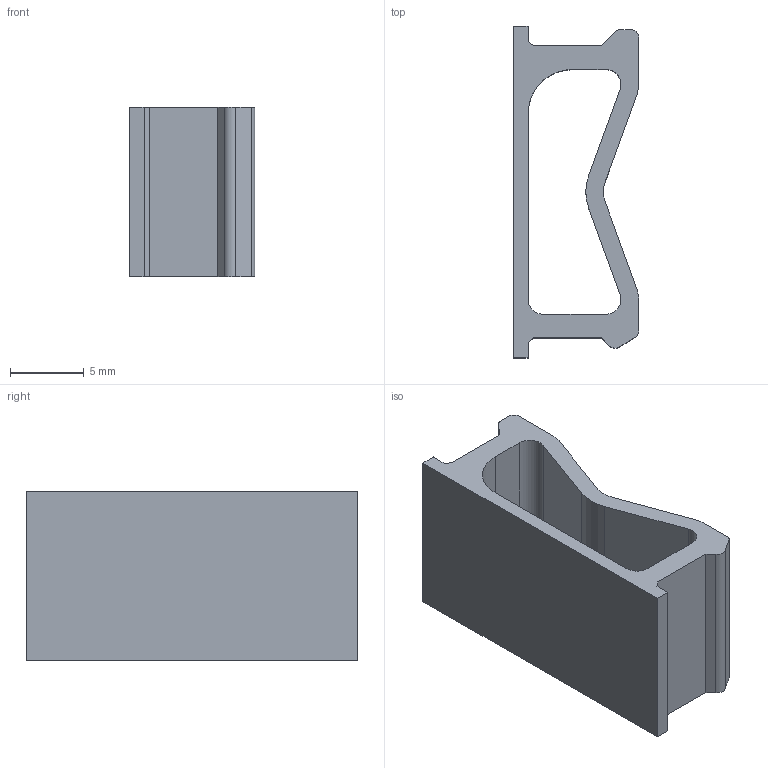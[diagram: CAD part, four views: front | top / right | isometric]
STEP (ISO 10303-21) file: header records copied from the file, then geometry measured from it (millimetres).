
FILE_DESCRIPTION(('FreeCAD Model'),'2;1');
FILE_NAME('Open CASCADE Shape Model','2023-05-07T23:04:13',('Author'),( ''),'Open CASCADE STEP processor 7.6','FreeCAD','Unknown');
FILE_SCHEMA(('AUTOMOTIVE_DESIGN { 1 0 10303 214 1 1 1 1 }'));
Length unit declared in the file: millimetre
Products named in the file (1): HSW Ez-V1 Hook BASE v2.2
Bounding box: 8.5 x 22.5 x 11.5 mm (x, y, z)
Volume: 833.9 mm3; surface area: 1400.2 mm2
Topology: 1 solids, 1 shells, 73 faces, 204 edges, 136 vertices
Faces by surface type: plane 58, cylinder 12, bspline 3
Entity records: 5256 total; most frequent: CARTESIAN_POINT 1177, DIRECTION 738, LINE 534, VECTOR 534, ORIENTED_EDGE 408, PCURVE 408, DEFINITIONAL_REPRESENTATION 408, EDGE_CURVE 204
